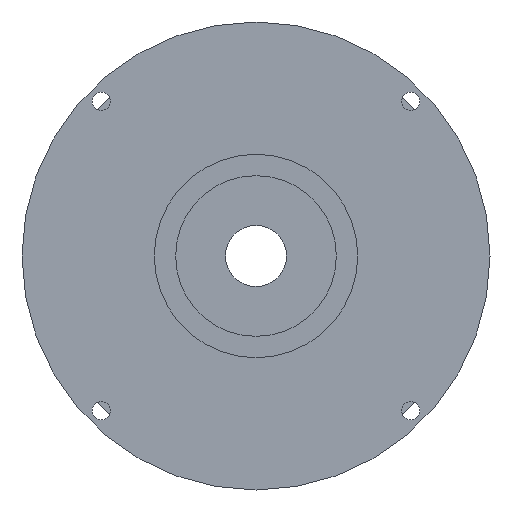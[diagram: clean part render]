
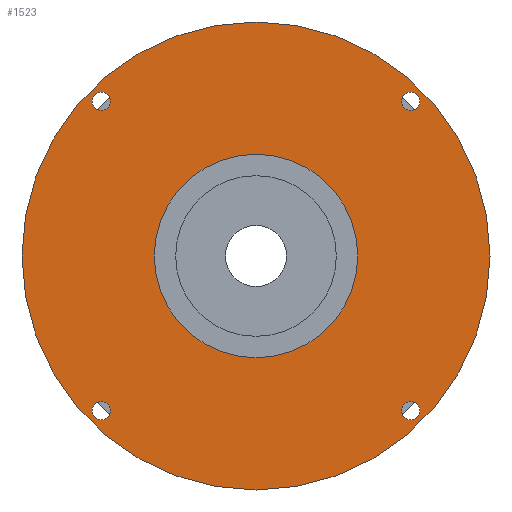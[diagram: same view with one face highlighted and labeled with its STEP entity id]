
A CAD part, left-side view. The second image highlights one B-rep face of the part: STEP entity #1523.
In plain terms, the highlighted planar face has unit normal (-1, 0, 0).
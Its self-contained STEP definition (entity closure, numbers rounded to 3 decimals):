
#263=FACE_BOUND('',#440,.T.);
#264=FACE_BOUND('',#441,.T.);
#265=FACE_BOUND('',#442,.T.);
#266=FACE_BOUND('',#443,.T.);
#267=FACE_BOUND('',#444,.T.);
#324=FACE_OUTER_BOUND('',#439,.T.);
#439=EDGE_LOOP('',(#1266,#1267));
#440=EDGE_LOOP('',(#1268));
#441=EDGE_LOOP('',(#1269));
#442=EDGE_LOOP('',(#1270));
#443=EDGE_LOOP('',(#1271));
#444=EDGE_LOOP('',(#1272,#1273));
#557=CIRCLE('',#1686,4.5);
#560=CIRCLE('',#1690,4.5);
#563=CIRCLE('',#1694,4.5);
#566=CIRCLE('',#1698,4.5);
#569=CIRCLE('',#1702,115.);
#570=CIRCLE('',#1703,115.);
#585=CIRCLE('',#1725,50.);
#586=CIRCLE('',#1726,50.);
#715=VERTEX_POINT('',#2546);
#718=VERTEX_POINT('',#2554);
#721=VERTEX_POINT('',#2562);
#724=VERTEX_POINT('',#2570);
#727=VERTEX_POINT('',#2578);
#728=VERTEX_POINT('',#2580);
#747=VERTEX_POINT('',#2665);
#748=VERTEX_POINT('',#2667);
#889=EDGE_CURVE('',#715,#715,#557,.T.);
#893=EDGE_CURVE('',#718,#718,#560,.T.);
#897=EDGE_CURVE('',#721,#721,#563,.T.);
#901=EDGE_CURVE('',#724,#724,#566,.T.);
#905=EDGE_CURVE('',#727,#728,#569,.T.);
#906=EDGE_CURVE('',#728,#727,#570,.T.);
#930=EDGE_CURVE('',#748,#747,#585,.T.);
#931=EDGE_CURVE('',#747,#748,#586,.T.);
#1266=ORIENTED_EDGE('',*,*,#906,.F.);
#1267=ORIENTED_EDGE('',*,*,#905,.F.);
#1268=ORIENTED_EDGE('',*,*,#889,.T.);
#1269=ORIENTED_EDGE('',*,*,#893,.T.);
#1270=ORIENTED_EDGE('',*,*,#897,.T.);
#1271=ORIENTED_EDGE('',*,*,#901,.T.);
#1272=ORIENTED_EDGE('',*,*,#930,.T.);
#1273=ORIENTED_EDGE('',*,*,#931,.T.);
#1458=PLANE('',#1727);
#1523=ADVANCED_FACE('',(#324,#263,#264,#265,#266,#267),#1458,.T.);
#1686=AXIS2_PLACEMENT_3D('',#2548,#2056,#2057);
#1690=AXIS2_PLACEMENT_3D('',#2556,#2065,#2066);
#1694=AXIS2_PLACEMENT_3D('',#2564,#2074,#2075);
#1698=AXIS2_PLACEMENT_3D('',#2572,#2083,#2084);
#1702=AXIS2_PLACEMENT_3D('',#2581,#2092,#2093);
#1703=AXIS2_PLACEMENT_3D('',#2582,#2094,#2095);
#1725=AXIS2_PLACEMENT_3D('',#2668,#2145,#2146);
#1726=AXIS2_PLACEMENT_3D('',#2669,#2147,#2148);
#1727=AXIS2_PLACEMENT_3D('',#2670,#2149,#2150);
#2056=DIRECTION('center_axis',(1.,0.,0.));
#2057=DIRECTION('ref_axis',(0.,0.,-1.));
#2065=DIRECTION('center_axis',(1.,0.,0.));
#2066=DIRECTION('ref_axis',(0.,0.,-1.));
#2074=DIRECTION('center_axis',(1.,0.,0.));
#2075=DIRECTION('ref_axis',(0.,0.,-1.));
#2083=DIRECTION('center_axis',(1.,0.,0.));
#2084=DIRECTION('ref_axis',(0.,0.,-1.));
#2092=DIRECTION('center_axis',(1.,0.,0.));
#2093=DIRECTION('ref_axis',(0.,0.,-1.));
#2094=DIRECTION('center_axis',(1.,0.,0.));
#2095=DIRECTION('ref_axis',(0.,0.,-1.));
#2145=DIRECTION('center_axis',(1.,0.,0.));
#2146=DIRECTION('ref_axis',(0.,0.,-1.));
#2147=DIRECTION('center_axis',(1.,0.,0.));
#2148=DIRECTION('ref_axis',(0.,0.,-1.));
#2149=DIRECTION('center_axis',(-1.,0.,0.));
#2150=DIRECTION('ref_axis',(0.,0.,1.));
#2546=CARTESIAN_POINT('',(-15.,-76.014,-71.514));
#2548=CARTESIAN_POINT('Origin',(-15.,-76.014,-76.014));
#2554=CARTESIAN_POINT('',(-15.,76.014,80.514));
#2556=CARTESIAN_POINT('Origin',(-15.,76.014,76.014));
#2562=CARTESIAN_POINT('',(-15.,-76.014,80.514));
#2564=CARTESIAN_POINT('Origin',(-15.,-76.014,76.014));
#2570=CARTESIAN_POINT('',(-15.,76.014,-71.514));
#2572=CARTESIAN_POINT('Origin',(-15.,76.014,-76.014));
#2578=CARTESIAN_POINT('',(-15.,-115.,0.));
#2580=CARTESIAN_POINT('',(-15.,115.,0.));
#2581=CARTESIAN_POINT('Origin',(-15.,0.,0.));
#2582=CARTESIAN_POINT('Origin',(-15.,0.,0.));
#2665=CARTESIAN_POINT('',(-15.,-50.,0.));
#2667=CARTESIAN_POINT('',(-15.,50.,0.));
#2668=CARTESIAN_POINT('Origin',(-15.,0.,0.));
#2669=CARTESIAN_POINT('Origin',(-15.,0.,0.));
#2670=CARTESIAN_POINT('Origin',(-15.,115.,0.));
